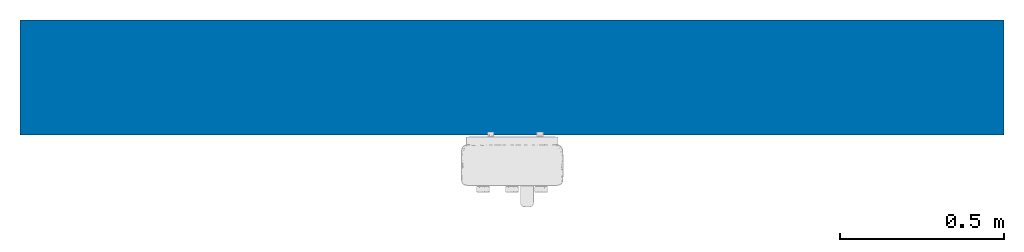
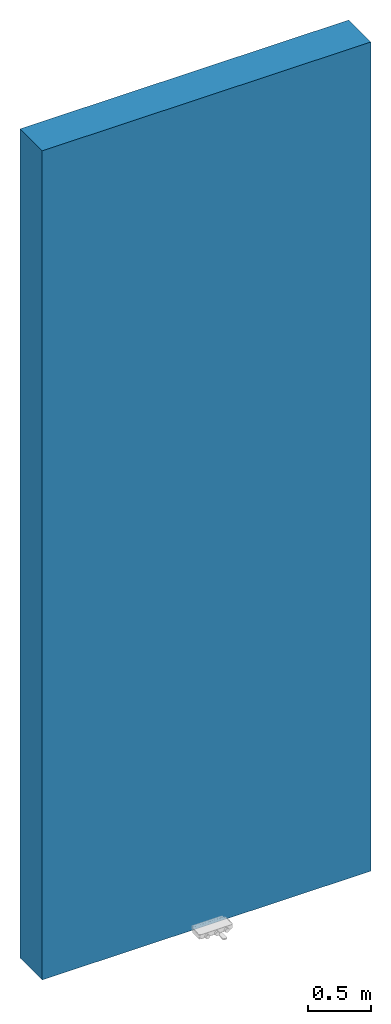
# One storey, incomplete: 1 wall.
"""IFC2X3 building model written with IfcOpenShell, lengths in millimetres."""

from ifc_helpers import new_model, entity, si_unit, converted_unit, derived_unit, direction, frame, frame_2d, origin, place, context, subcontext, project, spatial, rectangle, extrude, type_object, element, save


model = new_model("IFC2X3")

# Units and contexts
model_context = context("Model", 3, precision=0.01, world=origin(), true_north=direction((6.12303176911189e-17, 1.0)))
body_context = subcontext(model_context, "Body", "Model", "MODEL_VIEW")
ifc_project = project(units=[si_unit("LENGTHUNIT", "METRE", prefix="MILLI"), si_unit("AREAUNIT", "SQUARE_METRE"), si_unit("VOLUMEUNIT", "CUBIC_METRE"), converted_unit("PLANEANGLEUNIT", "DEGREE", entity("IfcRatioMeasure", 0.0174532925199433), si_unit("PLANEANGLEUNIT", "RADIAN"), dimensions=[0, 0, 0, 0, 0, 0, 0]), si_unit("MASSUNIT", "GRAM", prefix="KILO"), derived_unit("MASSDENSITYUNIT", [(si_unit("MASSUNIT", "GRAM", prefix="KILO"), 1), (si_unit("LENGTHUNIT", "METRE"), -3)]), derived_unit("MOMENTOFINERTIAUNIT", [(si_unit("LENGTHUNIT", "METRE"), 4)]), si_unit("TIMEUNIT", "SECOND"), si_unit("FREQUENCYUNIT", "HERTZ"), si_unit("THERMODYNAMICTEMPERATUREUNIT", "DEGREE_CELSIUS"), derived_unit("THERMALTRANSMITTANCEUNIT", [(si_unit("MASSUNIT", "GRAM", prefix="KILO"), 1), (si_unit("THERMODYNAMICTEMPERATUREUNIT", "KELVIN"), -1), (si_unit("TIMEUNIT", "SECOND"), -3)]), derived_unit("VOLUMETRICFLOWRATEUNIT", [(si_unit("LENGTHUNIT", "METRE"), 3), (si_unit("TIMEUNIT", "SECOND"), -1)]), si_unit("ELECTRICCURRENTUNIT", "AMPERE"), si_unit("ELECTRICVOLTAGEUNIT", "VOLT"), si_unit("POWERUNIT", "WATT"), si_unit("FORCEUNIT", "NEWTON", prefix="KILO"), si_unit("ILLUMINANCEUNIT", "LUX"), si_unit("LUMINOUSFLUXUNIT", "LUMEN"), si_unit("LUMINOUSINTENSITYUNIT", "CANDELA"), derived_unit("USERDEFINED", [(si_unit("MASSUNIT", "GRAM", prefix="KILO"), -1), (si_unit("LENGTHUNIT", "METRE"), -2), (si_unit("TIMEUNIT", "SECOND"), 3), (si_unit("LUMINOUSFLUXUNIT", "LUMEN"), 1)]), derived_unit("LINEARVELOCITYUNIT", [(si_unit("LENGTHUNIT", "METRE"), 1), (si_unit("TIMEUNIT", "SECOND"), -1)]), si_unit("PRESSUREUNIT", "PASCAL"), derived_unit("USERDEFINED", [(si_unit("LENGTHUNIT", "METRE"), -2), (si_unit("MASSUNIT", "GRAM", prefix="KILO"), 1), (si_unit("TIMEUNIT", "SECOND"), -2)]), derived_unit("LINEARFORCEUNIT", [(si_unit("MASSUNIT", "GRAM", prefix="KILO"), 1), (si_unit("LENGTHUNIT", "METRE"), 1), (si_unit("TIMEUNIT", "SECOND"), -2), (si_unit("LENGTHUNIT", "METRE"), -1)]), derived_unit("PLANARFORCEUNIT", [(si_unit("MASSUNIT", "GRAM", prefix="KILO"), 1), (si_unit("LENGTHUNIT", "METRE"), 1), (si_unit("TIMEUNIT", "SECOND"), -2), (si_unit("LENGTHUNIT", "METRE"), -2)])], contexts=[model_context])

# Site, building, storey
site_placement = place(None, origin())
site = spatial("IfcSite", under=ifc_project, at=site_placement, Name="Default", CompositionType="ELEMENT")
building_placement = place(site_placement, origin())
building = spatial("IfcBuilding", under=site, at=building_placement, CompositionType="ELEMENT")
storey_placement = place(building_placement, origin())
storey = spatial("IfcBuildingStorey", under=building, at=storey_placement, Name="Level 1", CompositionType="ELEMENT", Elevation=0.0)

# Wall
wall_type = type_object("IfcWallType", Name="Basic Wall:Exterior - Brick on Mtl. Stud", PredefinedType="STANDARD")
wall_placement = place(storey_placement, frame((-8003.69456924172, 1276.4604518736, 0.0)))
element("IfcWallStandardCase", 1, at=wall_placement, inside=storey, type_object=wall_type, Name="Basic Wall:Exterior - Brick on Mtl. Stud", ObjectType="Basic Wall:Exterior - Brick on Mtl. Stud", context=body_context, shape_type="SweptSolid", body=[
    extrude(rectangle(XDim=3000.0, YDim=350.0, at=frame_2d((1500.0, 0.0), x_axis=(-1.0, 0.0))), origin(), (0.0, 0.0, 1.0), 8000.0),
])

save(model, "model.ifc")
